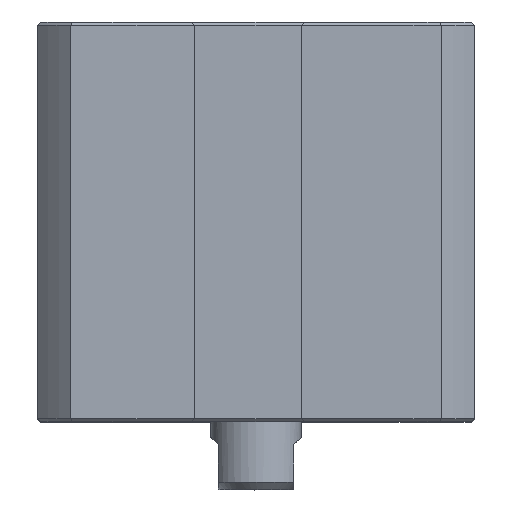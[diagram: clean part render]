
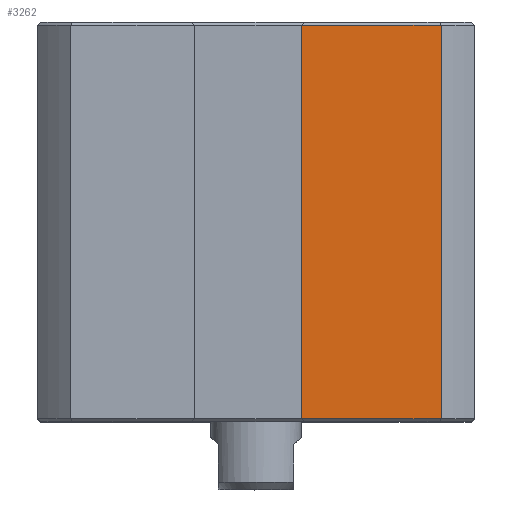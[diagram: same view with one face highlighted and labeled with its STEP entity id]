
A CAD part, top view. The second image highlights one B-rep face of the part: STEP entity #3262.
In plain terms, the highlighted planar face has unit normal (0, 0, 1).
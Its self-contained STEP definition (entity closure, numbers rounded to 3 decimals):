
#144=LINE('',#4535,#329);
#147=LINE('',#4541,#332);
#148=LINE('',#4544,#333);
#149=LINE('',#4545,#334);
#329=VECTOR('',#3839,1000.);
#332=VECTOR('',#3844,1000.);
#333=VECTOR('',#3845,1000.);
#334=VECTOR('',#3846,1000.);
#596=ORIENTED_EDGE('',*,*,#1168,.F.);
#597=ORIENTED_EDGE('',*,*,#1169,.T.);
#598=ORIENTED_EDGE('',*,*,#1165,.T.);
#599=ORIENTED_EDGE('',*,*,#1170,.T.);
#1165=EDGE_CURVE('',#1458,#1459,#144,.T.);
#1168=EDGE_CURVE('',#1460,#1461,#147,.T.);
#1169=EDGE_CURVE('',#1460,#1458,#148,.T.);
#1170=EDGE_CURVE('',#1459,#1461,#149,.T.);
#1458=VERTEX_POINT('',#4536);
#1459=VERTEX_POINT('',#4537);
#1460=VERTEX_POINT('',#4542);
#1461=VERTEX_POINT('',#4543);
#1717=EDGE_LOOP('',(#596,#597,#598,#599));
#1919=FACE_BOUND('',#1717,.T.);
#2082=PLANE('',#3465);
#3262=ADVANCED_FACE('',(#1919),#2082,.T.);
#3465=AXIS2_PLACEMENT_3D('',#4540,#3842,#3843);
#3839=DIRECTION('',(0.,-1.,0.));
#3842=DIRECTION('',(0.,0.,1.));
#3843=DIRECTION('',(1.,0.,0.));
#3844=DIRECTION('',(0.,-1.,0.));
#3845=DIRECTION('',(-1.,0.,0.));
#3846=DIRECTION('',(1.,0.,0.));
#4535=CARTESIAN_POINT('',(3.,26.5,14.5));
#4536=CARTESIAN_POINT('',(3.,26.3,14.5));
#4537=CARTESIAN_POINT('',(3.,0.2,14.5));
#4540=CARTESIAN_POINT('',(12.278,26.5,14.5));
#4541=CARTESIAN_POINT('',(12.278,26.5,14.5));
#4542=CARTESIAN_POINT('',(12.278,26.3,14.5));
#4543=CARTESIAN_POINT('',(12.278,0.2,14.5));
#4544=CARTESIAN_POINT('',(3.,26.3,14.5));
#4545=CARTESIAN_POINT('',(12.278,0.2,14.5));
